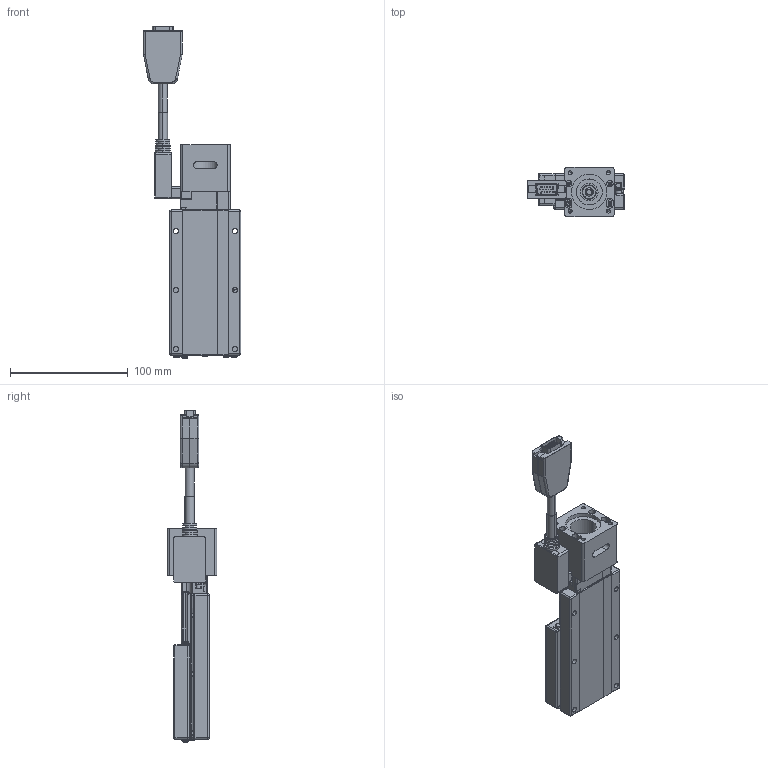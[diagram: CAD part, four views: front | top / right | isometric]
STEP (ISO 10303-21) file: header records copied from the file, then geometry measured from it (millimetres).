
FILE_DESCRIPTION (( 'STEP AP203' ), '1' );
FILE_NAME ('CXS6050(伺服M無馬達).STEP', '2023-12-25T08:29:55', ( '' ), ( '' ), 'SwSTEP 2.0', 'SolidWorks 2019', '' );
FILE_SCHEMA (( 'CONFIG_CONTROL_DESIGN' ));
Length unit declared in the file: millimetre
Products named in the file (6): Group1^CXS6050(伺服M無馬達)_defeature_GMT; CXS-H-01; CXS-M_GMT; HR10A-10J-12P; Group2^CXS6050(伺服M無馬達)_defeature_GMT; CXS6050(伺服M無馬達)
Assembly tree (5 placements, depth 2):
  CXS6050(伺服M無馬達)
    Group1^CXS6050(伺服M無馬達)_defeature_GMT
    Group2^CXS6050(伺服M無馬達)_defeature_GMT
    HR10A-10J-12P
    CXS-M_GMT
    CXS-H-01
Bounding box: 82.5 x 42 x 281.5 mm (x, y, z)
Volume: 95863.2 mm3; surface area: 97667.8 mm2
Topology: 7 solids, 14 shells, 2487 faces, 6339 edges, 3986 vertices
Faces by surface type: plane 1342, cylinder 707, bspline 142, cone 140, torus 88, sphere 68
Entity records: 81717 total; most frequent: CARTESIAN_POINT 21051, ORIENTED_EDGE 12558, DIRECTION 12420, EDGE_CURVE 6279, AXIS2_PLACEMENT_3D 4242, VERTEX_POINT 3986, VECTOR 3936, LINE 3936
